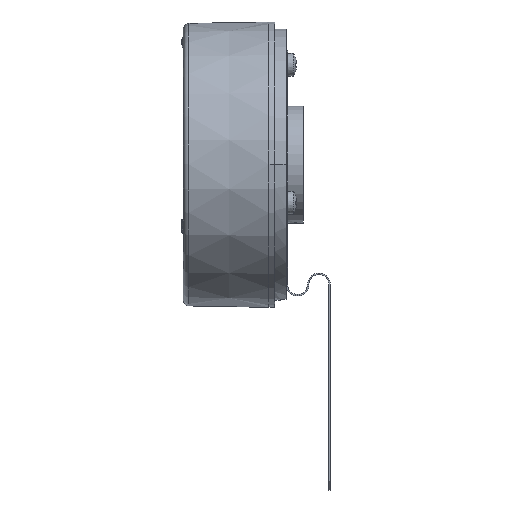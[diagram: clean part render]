
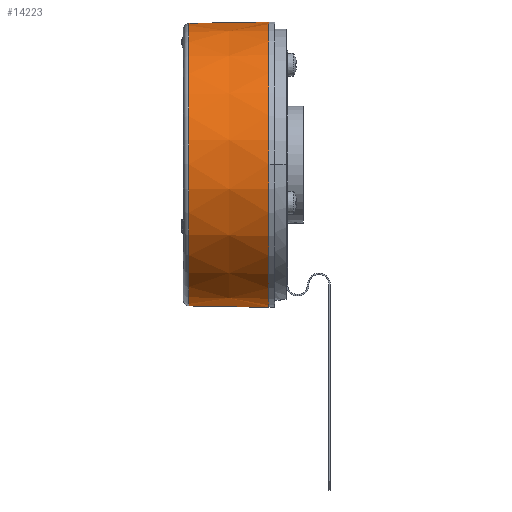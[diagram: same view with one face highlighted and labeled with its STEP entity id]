
A CAD part, top view. The second image highlights one B-rep face of the part: STEP entity #14223.
In plain terms, the highlighted conical face has half-angle 1 degrees and reference radius 50 mm.
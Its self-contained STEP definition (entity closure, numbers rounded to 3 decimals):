
#1641 = FACE_OUTER_BOUND ( 'NONE', #14258, .T. ) ;
#1649 = DIRECTION ( 'NONE',  ( 0., 1., 0. ) ) ;
#1650 = DIRECTION ( 'NONE',  ( -1., 0., 0. ) ) ;
#1651 = AXIS2_PLACEMENT_3D ( 'NONE', #1658, #1650, #1649 ) ;
#1652 = CIRCLE ( 'NONE', #1651, 50. ) ;
#1658 = CARTESIAN_POINT ( 'NONE',  ( 43.227, -3.167, 0. ) ) ;
#1659 = CARTESIAN_POINT ( 'NONE',  ( 15.192, -52.677, 0. ) ) ;
#1677 = DIRECTION ( 'NONE',  ( 0., -1., 0. ) ) ;
#1678 = DIRECTION ( 'NONE',  ( 1., 0., 0. ) ) ;
#1679 = AXIS2_PLACEMENT_3D ( 'NONE', #1682, #1678, #1677 ) ;
#1680 = CONICAL_SURFACE ( 'NONE', #1679, 50., 0.017 ) ;
#1682 = CARTESIAN_POINT ( 'NONE',  ( 43.227, -3.167, 0. ) ) ;
#1766 = CARTESIAN_POINT ( 'NONE',  ( 43.227, -53.167, 0. ) ) ;
#1910 = DIRECTION ( 'NONE',  ( 0., 1., 0. ) ) ;
#1911 = DIRECTION ( 'NONE',  ( 1., 0., 0. ) ) ;
#1912 = CARTESIAN_POINT ( 'NONE',  ( 15.192, -3.167, 0. ) ) ;
#1913 = AXIS2_PLACEMENT_3D ( 'NONE', #1912, #1911, #1910 ) ;
#1914 = CIRCLE ( 'NONE', #1913, 49.511 ) ;
#1943 = DIRECTION ( 'NONE',  ( 1., -0.017, 0. ) ) ;
#1944 = VECTOR ( 'NONE', #1943, 1000. ) ;
#1945 = CARTESIAN_POINT ( 'NONE',  ( 43.227, -53.167, 0. ) ) ;
#1946 = LINE ( 'NONE', #1945, #1944 ) ;
#2332 = LINE ( 'NONE', #2379, #2378 ) ;
#2376 = CARTESIAN_POINT ( 'NONE',  ( 43.227, 46.833, 0. ) ) ;
#2377 = DIRECTION ( 'NONE',  ( 1., 0.017, 0. ) ) ;
#2378 = VECTOR ( 'NONE', #2377, 1000. ) ;
#2379 = CARTESIAN_POINT ( 'NONE',  ( 43.227, 46.833, 0. ) ) ;
#2398 = CARTESIAN_POINT ( 'NONE',  ( 15.192, 46.344, 0. ) ) ;
#14211 = VERTEX_POINT ( 'NONE', #1659 ) ;
#14212 = ORIENTED_EDGE ( 'NONE', *, *, #14305, .T. ) ;
#14215 = ORIENTED_EDGE ( 'NONE', *, *, #14432, .F. ) ;
#14216 = ORIENTED_EDGE ( 'NONE', *, *, #14217, .T. ) ;
#14217 = EDGE_CURVE ( 'NONE', #14257, #14433, #1652, .T. ) ;
#14223 = ADVANCED_FACE ( 'NONE', ( #1641 ), #1680, .T. ) ;
#14250 = ORIENTED_EDGE ( 'NONE', *, *, #14303, .T. ) ;
#14257 = VERTEX_POINT ( 'NONE', #1766 ) ;
#14258 = EDGE_LOOP ( 'NONE', ( #14215, #14250, #14212, #14216 ) ) ;
#14303 = EDGE_CURVE ( 'NONE', #14447, #14211, #1914, .T. ) ;
#14305 = EDGE_CURVE ( 'NONE', #14211, #14257, #1946, .T. ) ;
#14432 = EDGE_CURVE ( 'NONE', #14447, #14433, #2332, .T. ) ;
#14433 = VERTEX_POINT ( 'NONE', #2376 ) ;
#14447 = VERTEX_POINT ( 'NONE', #2398 ) ;
